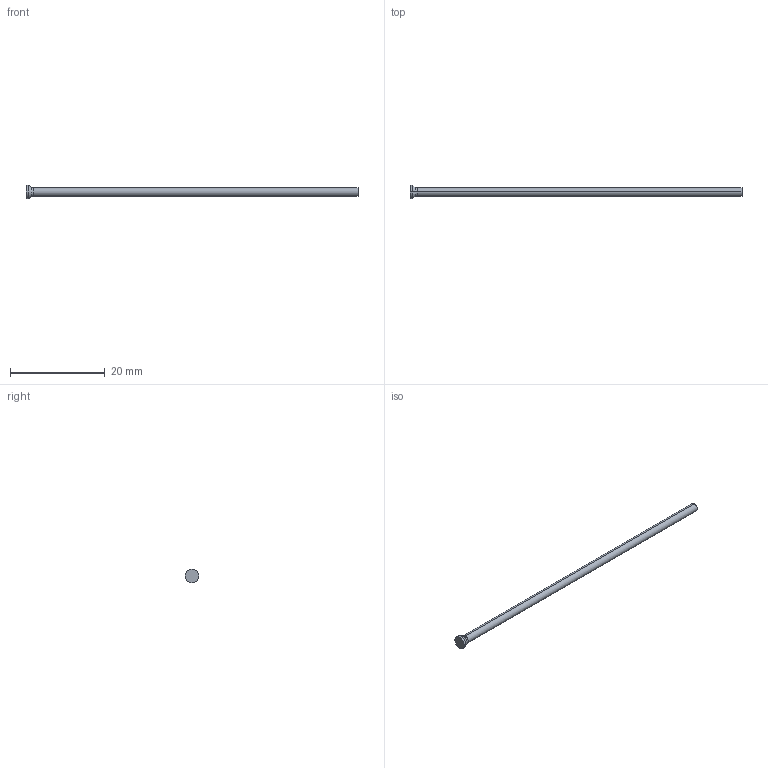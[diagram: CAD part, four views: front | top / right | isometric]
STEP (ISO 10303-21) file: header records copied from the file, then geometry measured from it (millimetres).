
FILE_DESCRIPTION (( 'STEP AP214' ), '1' );
FILE_NAME ('D-1,75x70.STEP', '2020-06-08T09:47:27', ( 'August' ), ( '' ), 'SwSTEP 2.0', 'SolidWorks 2018', '' );
FILE_SCHEMA (( 'AUTOMOTIVE_DESIGN' ));
Length unit declared in the file: millimetre
Products named in the file (1): D-1,75x70
Bounding box: 70 x 2.8 x 2.8 mm (x, y, z)
Volume: 171.9 mm3; surface area: 397.5 mm2
Topology: 1 solids, 1 shells, 10 faces, 18 edges, 10 vertices
Faces by surface type: cylinder 4, torus 2, cone 2, plane 2
Entity records: 280 total; most frequent: DIRECTION 52, CARTESIAN_POINT 39, ORIENTED_EDGE 36, AXIS2_PLACEMENT_3D 23, EDGE_CURVE 18, CIRCLE 12, VERTEX_POINT 10, ADVANCED_FACE 10
